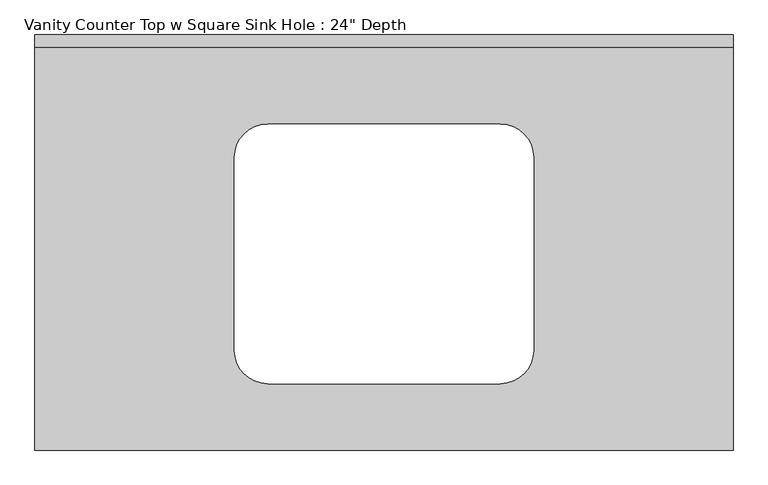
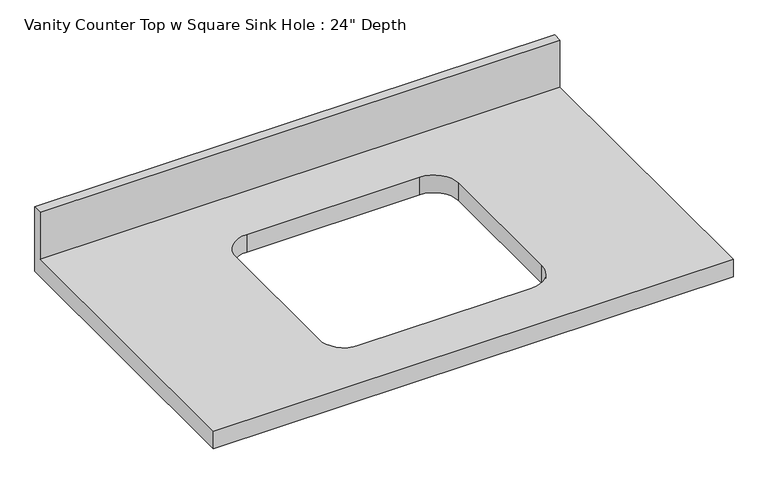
"""IFC4 building model written with IfcOpenShell, lengths in millimetres: furniture geometry."""

from ifc_helpers import new_model, si_unit, frame, origin, place, context, project, spatial, polyline, circle_curve, source, transform, mapped, element, save
from ifc_brep_helpers import plane_surface, revolved_surface, advanced_brep


def furniture_70c352e8(model_context):
    return source(origin(), model_context, "Body", "AdvancedBrep", [
        advanced_brep(
        [(-1268.7247951, -635.0, 787.4), (-201.9247951, -635.0, 787.4), (-201.9247951, -19.05, 787.4), (-1268.7247951, -19.05, 787.4), (-963.9247951, -187.325, 787.4), (-913.1247951, -136.525, 787.4), (-557.5247951, -136.525, 787.4), (-506.7247951, -187.325, 787.4), (-506.7247951, -482.6, 787.4), (-557.5247951, -533.4, 787.4), (-913.1247951, -533.4, 787.4), (-963.9247951, -482.6, 787.4), (-201.9247951, 0.0, 749.3), (-201.9247951, -635.0, 749.3), (-1268.7247951, -635.0, 749.3), (-1268.7247951, 0.0, 749.3), (-913.1247951, -136.525, 749.3), (-963.9247951, -187.325, 749.3), (-963.9247951, -482.6, 749.3), (-913.1247951, -533.4, 749.3), (-557.5247951, -533.4, 749.3), (-506.7247951, -482.6, 749.3), (-506.7247951, -187.325, 749.3), (-557.5247951, -136.525, 749.3), (-1268.7247951, 0.0, 889.0), (-201.9247951, 0.0, 889.0), (-1268.7247951, -19.05, 889.0), (-201.9247951, -19.05, 889.0)],
        [
            (0, 1),
            (1, 2),
            (2, 3),
            (3, 0),
            (4, 5, circle_curve(frame((-913.1247951, -187.325, 787.4), z_axis=(0.0, 0.0, -1.0), x_axis=(1.0, 0.0, 0.0)), 50.8)),
            (5, 6),
            (6, 7, circle_curve(frame((-557.5247951, -187.325, 787.4), z_axis=(0.0, 0.0, -1.0), x_axis=(1.0, 0.0, 0.0)), 50.8)),
            (7, 8),
            (8, 9, circle_curve(frame((-557.5247951, -482.6, 787.4), z_axis=(0.0, 0.0, -1.0), x_axis=(1.0, 0.0, 0.0)), 50.8)),
            (9, 10),
            (10, 11, circle_curve(frame((-913.1247951, -482.6, 787.4), z_axis=(0.0, 0.0, -1.0), x_axis=(1.0, 0.0, 0.0)), 50.8)),
            (11, 4),
            (12, 13),
            (13, 14),
            (14, 15),
            (15, 12),
            (16, 17, circle_curve(frame((-913.1247951, -187.325, 749.3), z_axis=(0.0, 0.0, 1.0), x_axis=(1.0, 0.0, 0.0)), 50.8)),
            (17, 18),
            (18, 19, circle_curve(frame((-913.1247951, -482.6, 749.3), z_axis=(0.0, 0.0, 1.0), x_axis=(1.0, 0.0, 0.0)), 50.8)),
            (19, 20),
            (20, 21, circle_curve(frame((-557.5247951, -482.6, 749.3), z_axis=(0.0, 0.0, 1.0), x_axis=(1.0, 0.0, 0.0)), 50.8)),
            (21, 22),
            (22, 23, circle_curve(frame((-557.5247951, -187.325, 749.3), z_axis=(0.0, 0.0, 1.0), x_axis=(1.0, 0.0, 0.0)), 50.8)),
            (23, 16),
            (15, 24),
            (24, 25),
            (25, 12),
            (14, 0),
            (3, 26),
            (26, 24),
            (13, 1),
            (25, 27),
            (27, 2),
            (26, 27),
            (4, 17),
            (16, 5),
            (11, 18),
            (10, 19),
            (9, 20),
            (8, 21),
            (7, 22),
            (6, 23),
        ],
        [
            plane_surface(frame((-1268.7247951, 0.0, 787.4), z_axis=(0.0, 0.0, 1.0), x_axis=(-1.0, 0.0, 0.0))),
            plane_surface(frame((-1268.7247951, 0.0, 749.3), z_axis=(0.0, 0.0, -1.0), x_axis=(1.0, 0.0, 0.0))),
            plane_surface(frame((-201.9247951, 0.0, 787.4), z_axis=(0.0, 1.0, 0.0), x_axis=(0.0, 0.0, -1.0))),
            plane_surface(frame((-1268.7247951, 0.0, 787.4), z_axis=(-1.0, 0.0, 0.0), x_axis=(0.0, 0.0, -1.0))),
            plane_surface(frame((-1268.7247951, -635.0, 787.4), z_axis=(0.0, -1.0, 0.0), x_axis=(0.0, 0.0, -1.0))),
            plane_surface(frame((-201.9247951, -635.0, 787.4), z_axis=(1.0, 0.0, 0.0), x_axis=(0.0, 0.0, -1.0))),
            plane_surface(frame((-1268.7247951, 0.0, 889.0), z_axis=(0.0, 0.0, 1.0), x_axis=(0.0, -1.0, 0.0))),
            plane_surface(frame((-1268.7247951, -19.05, 889.0), z_axis=(0.0, -1.0, 0.0), x_axis=(0.0, 0.0, -1.0))),
            revolved_surface(polyline([(-862.3247951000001, -187.325, 787.4), (-862.3247951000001, -187.325, 749.3)]), (-913.1247951, -187.325, 749.3), (0.0, 0.0, 1.0)),
            plane_surface(frame((-963.9247951, -187.325, 787.4), z_axis=(1.0, 0.0, 0.0), x_axis=(0.0, 0.0, -1.0))),
            revolved_surface(polyline([(-862.3247951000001, -482.6, 787.4), (-862.3247951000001, -482.6, 749.3)]), (-913.1247951, -482.6, 749.3), (0.0, 0.0, 1.0)),
            plane_surface(frame((-913.1247951, -533.4, 787.4), z_axis=(0.0, 1.0, 0.0), x_axis=(0.0, 0.0, -1.0))),
            revolved_surface(polyline([(-506.7247951, -482.6, 787.4), (-506.7247951, -482.6, 749.3)]), (-557.5247951, -482.6, 749.3), (0.0, 0.0, 1.0)),
            plane_surface(frame((-506.7247951, -482.6, 787.4), z_axis=(-1.0, 0.0, 0.0), x_axis=(0.0, 0.0, -1.0))),
            revolved_surface(polyline([(-506.7247951, -187.325, 787.4), (-506.7247951, -187.325, 749.3)]), (-557.5247951, -187.325, 749.3), (0.0, 0.0, 1.0)),
            plane_surface(frame((-557.5247951, -136.525, 787.4), z_axis=(0.0, -1.0, 0.0), x_axis=(0.0, 0.0, -1.0))),
        ],
        [
            (0, [[1, 2, 3, 4], [5, 6, 7, 8, 9, 10, 11, 12]]),
            (1, [[13, 14, 15, 16], [17, 18, 19, 20, 21, 22, 23, 24]]),
            (2, [[-16, 25, 26, 27]]),
            (3, [[-15, 28, -4, 29, 30, -25]]),
            (4, [[-1, -28, -14, 31]]),
            (5, [[-13, -27, 32, 33, -2, -31]]),
            (6, [[-30, 34, -32, -26]]),
            (7, [[-34, -29, -3, -33]]),
            (8, [[35, -17, 36, -5]]),
            (9, [[-35, -12, 37, -18]]),
            (10, [[-37, -11, 38, -19]]),
            (11, [[-38, -10, 39, -20]]),
            (12, [[-39, -9, 40, -21]]),
            (13, [[-40, -8, 41, -22]]),
            (14, [[-41, -7, 42, -23]]),
            (15, [[-36, -24, -42, -6]]),
        ],
    ),
    ])


if __name__ == "__main__":
    model = new_model("IFC4")
    model_context = context("Model", 3, world=origin())
    ifc_project = project(units=[si_unit("LENGTHUNIT", "METRE", prefix="MILLI")], contexts=[model_context])
    site = spatial("IfcSite", under=ifc_project)
    building = spatial("IfcBuilding", under=site)
    placement = place(None, origin())
    furniture_shape = furniture_70c352e8(model_context)
    element("IfcFurniture", 1, ObjectType="Vanity Counter Top w Square Sink Hole : 24\" Depth", at=placement, inside=building, context=model_context, shape_type="MappedRepresentation", body=[
        mapped(furniture_shape, transform((0.0, 0.0, 0.0), x_axis=(1.0, 0.0, 0.0), y_axis=(0.0, 1.0, 0.0), z_axis=(0.0, 0.0, 1.0))),
    ])
    save(model, "model.ifc")
